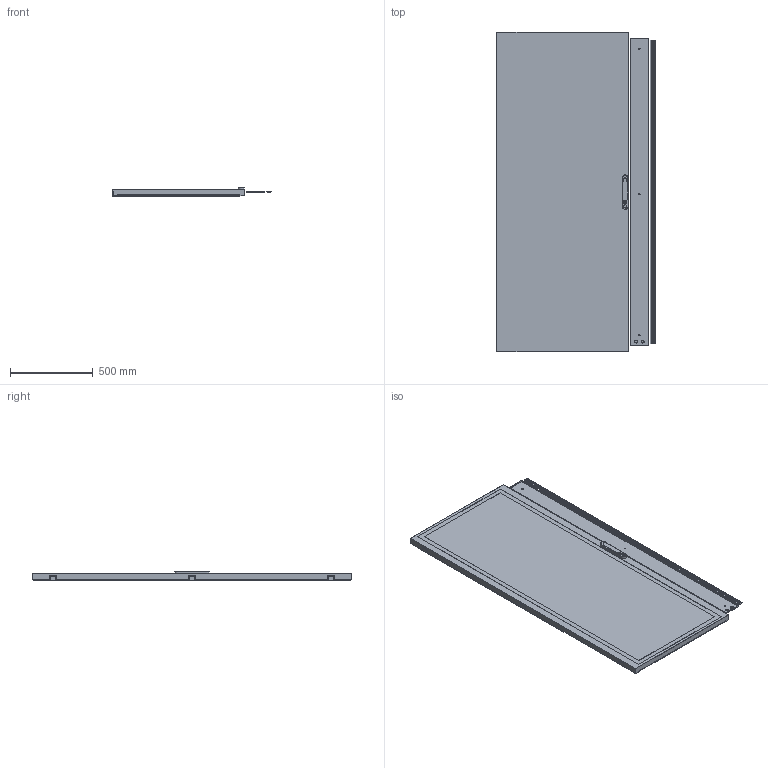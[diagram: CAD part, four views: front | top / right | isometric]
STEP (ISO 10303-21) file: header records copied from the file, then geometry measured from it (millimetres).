
FILE_DESCRIPTION((''),'2;1');
FILE_NAME('1618514444163_ASM','2021-04-16T00:51:01',('SESA176331'),('Schneider-Electric'),'CREO PARAMETRIC BY PTC INC, 2019164','CREO PARAMETRIC BY PTC INC, 2019164','');
FILE_SCHEMA(('AP242_MANAGED_MODEL_BASED_3D_ENGINEERING_MIM_LF { 1 0 10303 442 1 1 4 }'));
Length unit declared in the file: millimetre
Products named in the file (13): EMPTYNODE_1618514444205_ASM; 08518PROT-3D; 08518PROT-3D_ASM; 08518ESTH-3D_GHQ2534200; 08518ESTH-3D_ASM; SB106334_AAV8173401; SB106334_AAV55686; SB106334_469703900; GDE7745301; SB106334_ASM; SETG-HANDLE-SYSTEMP-3D_LVS08122; SETG-HANDLE-SYSTEMP-3D_ASM; 1618514444163_ASM
Assembly tree (14 placements, depth 3):
  1618514444163_ASM
    EMPTYNODE_1618514444205_ASM
    08518PROT-3D_ASM
      08518PROT-3D
    08518ESTH-3D_ASM
      08518ESTH-3D_GHQ2534200
    SB106334_ASM
      SB106334_AAV8173401
      SB106334_AAV55686  x3
      SB106334_469703900
      GDE7745301
    SETG-HANDLE-SYSTEMP-3D_ASM
      SETG-HANDLE-SYSTEMP-3D_LVS08122
Bounding box: 953.7 x 1925 x 59.97 mm (x, y, z)
Volume: 4865512.7 mm3; surface area: 5518552.5 mm2
Topology: 11 solids, 11 shells, 533 faces, 1424 edges, 973 vertices
Faces by surface type: plane 417, cylinder 100, extrusion 16
Entity records: 21367 total; most frequent: CARTESIAN_POINT 3187, ORIENTED_EDGE 2306, DIRECTION 2294, PRESENTATION_STYLE_ASSIGNMENT 1279, STYLED_ITEM 1200, CURVE_STYLE 1190, EDGE_CURVE 1153, VECTOR 976
